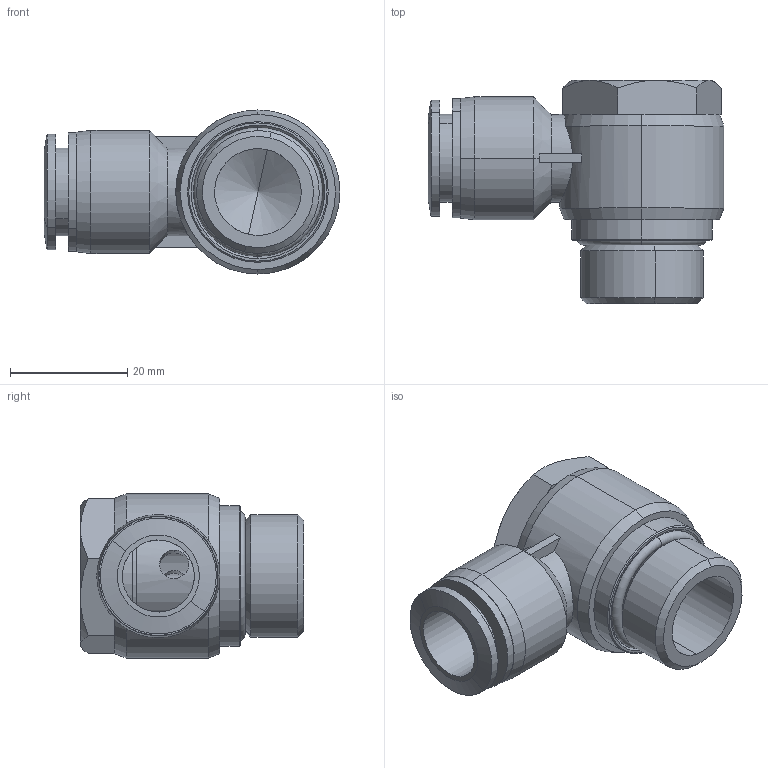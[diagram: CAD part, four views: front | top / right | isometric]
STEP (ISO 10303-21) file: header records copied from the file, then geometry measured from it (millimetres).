
FILE_DESCRIPTION (( 'STEP AP214' ), '1' );
FILE_NAME ('ZPH12-04G.STEP', '2025-07-04T00:54:25', ( 'E.mc' ), ( 'E.mc' ), 'SwSTEP 2.0', 'SolidWorks 2020', '' );
FILE_SCHEMA (( 'AUTOMOTIVE_DESIGN' ));
Length unit declared in the file: millimetre
Products named in the file (6): ZPH12-04G; PH04G; 04G縐杶; 04G-22X2; T12郈杶; SC12-04
Assembly tree (5 placements, depth 2):
  ZPH12-04G
    PH04G
    SC12-04
    T12郈杶
    04G縐杶
    04G-22X2
Bounding box: 50.5 x 38.1 x 28 mm (x, y, z)
Volume: 16594.3 mm3; surface area: 13698.4 mm2
Topology: 5 solids, 5 shells, 131 faces, 299 edges, 185 vertices
Faces by surface type: cylinder 56, plane 41, cone 30, torus 4
Entity records: 4597 total; most frequent: CARTESIAN_POINT 1366, DIRECTION 661, ORIENTED_EDGE 594, EDGE_CURVE 297, AXIS2_PLACEMENT_3D 276, VERTEX_POINT 185, EDGE_LOOP 158, CIRCLE 137
